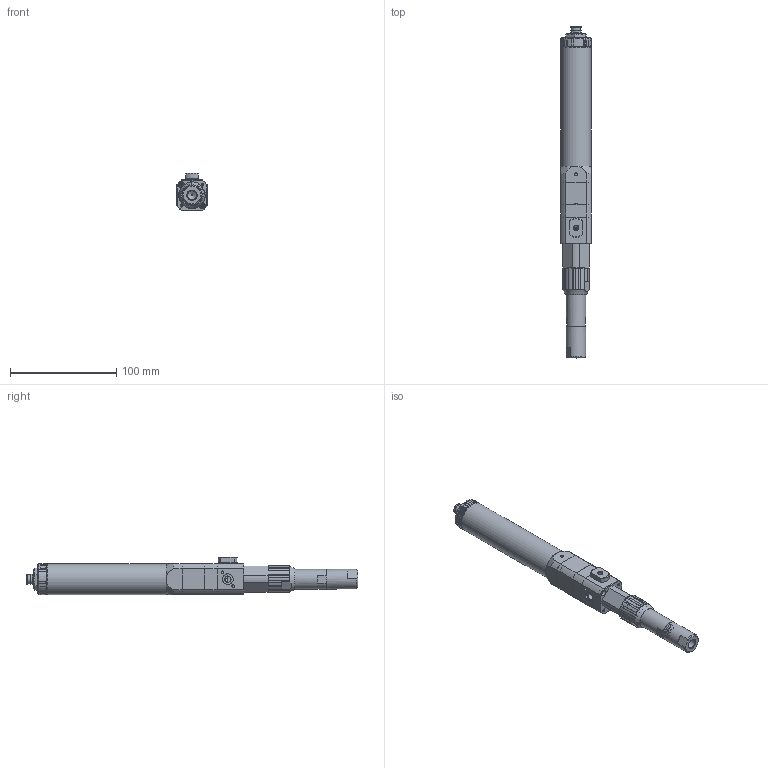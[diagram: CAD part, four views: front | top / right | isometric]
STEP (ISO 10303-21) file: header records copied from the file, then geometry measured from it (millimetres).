
FILE_DESCRIPTION (( 'STEP AP214' ), '1' );
FILE_NAME ('PCPM-1000-14.STEP', '2024-10-11T11:37:07', ( '' ), ( '' ), 'SwSTEP 2.0', 'SolidWorks 2024', '' );
FILE_SCHEMA (( 'AUTOMOTIVE_DESIGN' ));
Length unit declared in the file: millimetre
Products named in the file (1): PCPM-1000-14
Bounding box: 29 x 312.5 x 35 mm (x, y, z)
Volume: 86831.7 mm3; surface area: 80936.8 mm2
Topology: 28 solids, 28 shells, 1552 faces, 4055 edges, 2650 vertices
Faces by surface type: plane 915, cylinder 339, cone 181, bspline 71, sphere 32, torus 14
Full cylindrical faces by diameter (mm): 0.6 x1, 0.8 x4, 1 x5, 1.5 x2, 2 x1, 2.5 x14, 3 x2, 3.5 x15, 4 x1, 4.2 x1, 4.8 x1, 5 x1, 5.2 x1, 5.8 x7, 6 x8, 6.6 x3, 6.8 x1, 8 x2, 8.178 x1, 8.5 x1, 9 x4, 9.6 x2, 10 x4, 10.008 x2, 10.8 x2, 11 x1, 11.2 x1, 12 x1, 12.05 x4, 12.158 x4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
Entity records: 53058 total; most frequent: CARTESIAN_POINT 19353, ORIENTED_EDGE 6972, DIRECTION 6444, EDGE_CURVE 3486, AXIS2_PLACEMENT_3D 2568, VERTEX_POINT 2461, EDGE_LOOP 2117, FACE_OUTER_BOUND 1767
